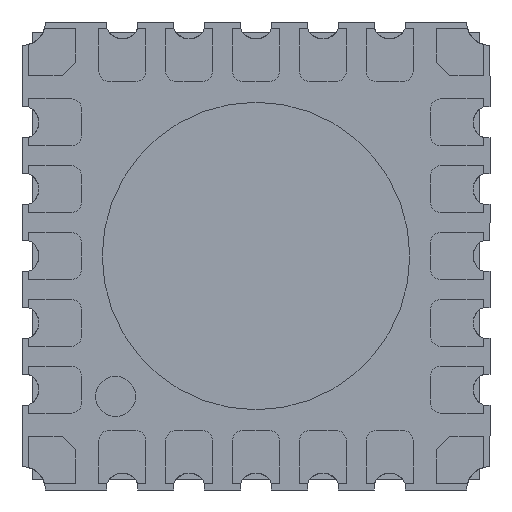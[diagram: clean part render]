
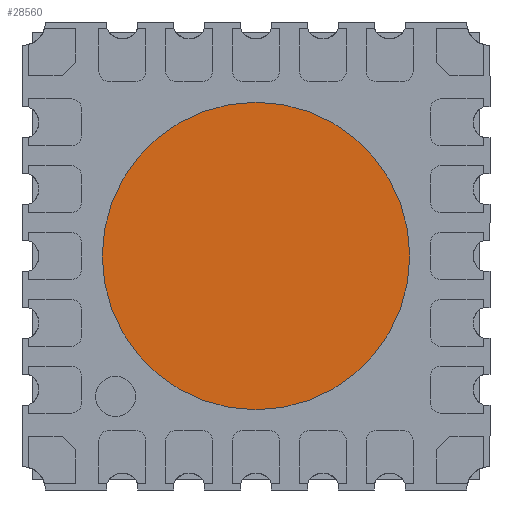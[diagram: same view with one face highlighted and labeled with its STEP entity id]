
A CAD part, front view. The second image highlights one B-rep face of the part: STEP entity #28560.
In plain terms, the highlighted planar face has unit normal (0, -1, 0).
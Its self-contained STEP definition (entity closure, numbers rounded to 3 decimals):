
#1365 = ORIENTED_EDGE ( 'NONE', *, *, #7163, .T. ) ;
#4134 = VERTEX_POINT ( 'NONE', #12717 ) ;
#4599 = CARTESIAN_POINT ( 'NONE',  ( 0., -0.702, 0. ) ) ;
#5041 = FACE_OUTER_BOUND ( 'NONE', #24687, .T. ) ;
#6852 = AXIS2_PLACEMENT_3D ( 'NONE', #4599, #21150, #6996 ) ;
#6996 = DIRECTION ( 'NONE',  ( 0., 0., -1. ) ) ;
#7163 = EDGE_CURVE ( 'NONE', #15372, #4134, #13137, .T. ) ;
#12353 = DIRECTION ( 'NONE',  ( 0., -1., 0. ) ) ;
#12529 = AXIS2_PLACEMENT_3D ( 'NONE', #25260, #25327, #25370 ) ;
#12717 = CARTESIAN_POINT ( 'NONE',  ( 0., -0.702, 2.3 ) ) ;
#13137 = CIRCLE ( 'NONE', #12529, 2.3 ) ;
#13507 = AXIS2_PLACEMENT_3D ( 'NONE', #26602, #12353, #29013 ) ;
#15372 = VERTEX_POINT ( 'NONE', #23213 ) ;
#20854 = CIRCLE ( 'NONE', #13507, 2.3 ) ;
#21150 = DIRECTION ( 'NONE',  ( 0., -1., 0. ) ) ;
#23213 = CARTESIAN_POINT ( 'NONE',  ( 0., -0.702, -2.3 ) ) ;
#24496 = ORIENTED_EDGE ( 'NONE', *, *, #25844, .T. ) ;
#24687 = EDGE_LOOP ( 'NONE', ( #24496, #1365 ) ) ;
#25260 = CARTESIAN_POINT ( 'NONE',  ( 0., -0.702, 0. ) ) ;
#25327 = DIRECTION ( 'NONE',  ( 0., -1., 0. ) ) ;
#25370 = DIRECTION ( 'NONE',  ( 0., 0., -1. ) ) ;
#25844 = EDGE_CURVE ( 'NONE', #4134, #15372, #20854, .T. ) ;
#25863 = PLANE ( 'NONE',  #6852 ) ;
#26602 = CARTESIAN_POINT ( 'NONE',  ( 0., -0.702, 0. ) ) ;
#28560 = ADVANCED_FACE ( 'NONE', ( #5041 ), #25863, .T. ) ;
#29013 = DIRECTION ( 'NONE',  ( 0., 0., -1. ) ) ;
